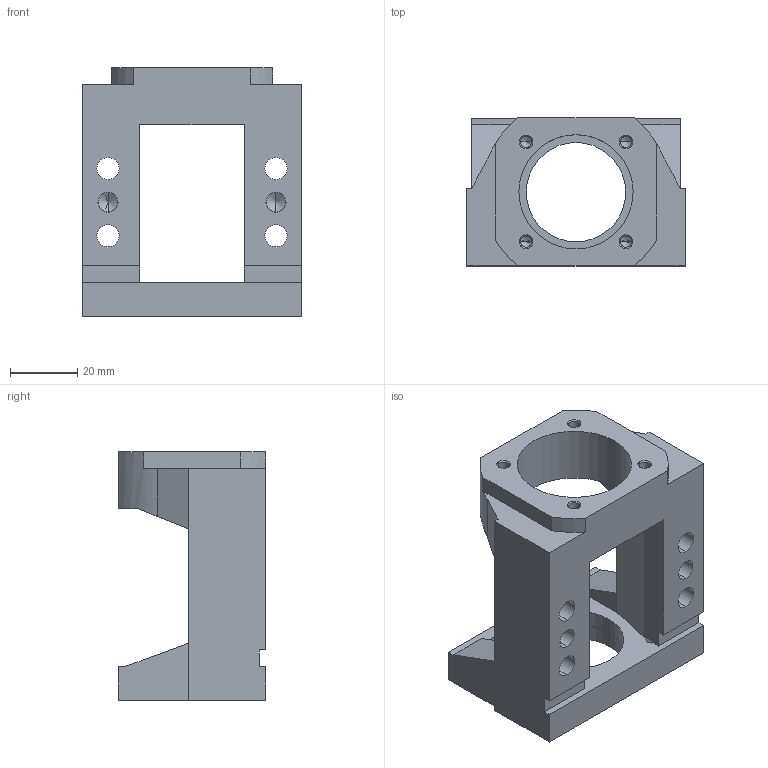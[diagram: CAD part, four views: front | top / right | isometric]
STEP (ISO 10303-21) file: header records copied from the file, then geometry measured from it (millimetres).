
FILE_DESCRIPTION (( 'STEP AP203' ), '1' );
FILE_NAME ('MBA10-B.STEP', '2011-09-29T00:48:01', ( '' ), ( '' ), 'SwSTEP 2.0', 'SolidWorks 2011', '' );
FILE_SCHEMA (( 'CONFIG_CONTROL_DESIGN' ));
Length unit declared in the file: millimetre
Products named in the file (1): MBA10-B
Bounding box: 65 x 44 x 74 mm (x, y, z)
Volume: 77812.7 mm3; surface area: 24601.2 mm2
Topology: 1 solids, 1 shells, 125 faces, 332 edges, 202 vertices
Faces by surface type: cylinder 52, plane 41, cone 32
Entity records: 3903 total; most frequent: DIRECTION 684, CARTESIAN_POINT 680, ORIENTED_EDGE 632, EDGE_CURVE 316, AXIS2_PLACEMENT_3D 250, VERTEX_POINT 202, VECTOR 184, LINE 184
